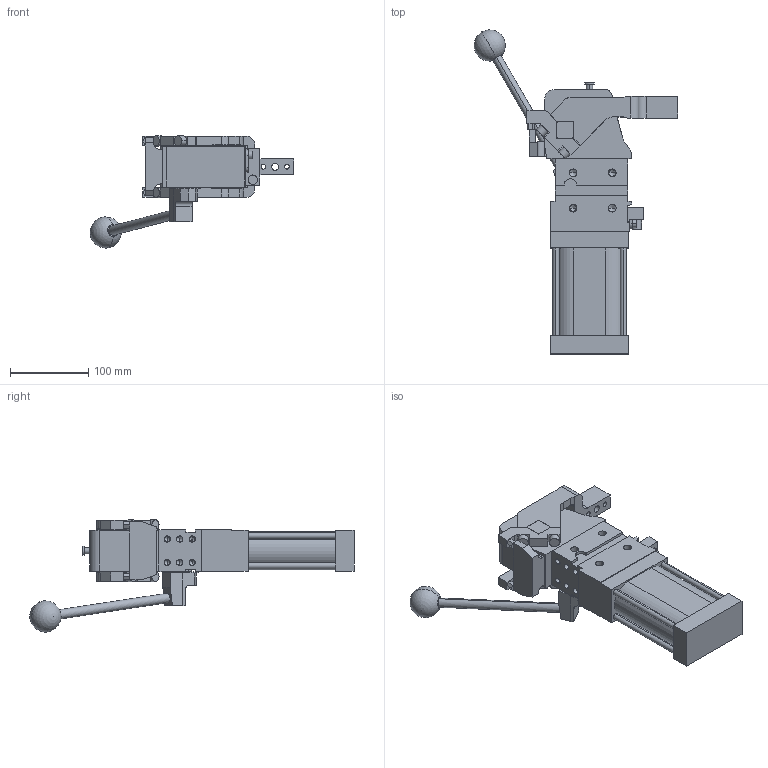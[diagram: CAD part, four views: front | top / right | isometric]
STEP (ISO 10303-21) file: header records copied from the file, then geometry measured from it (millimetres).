
FILE_DESCRIPTION (( 'STEP AP214' ), '1' );
FILE_NAME ('cplm63lbtv1csi1g_16.STEP', '2023-01-26T14:46:18', ( '' ), ( '' ), 'SwSTEP 2.0', 'SolidWorks 2022', '' );
FILE_SCHEMA (( 'AUTOMOTIVE_DESIGN' ));
Length unit declared in the file: millimetre
Products named in the file (5): leva_v1cs_cpl63t; blocchetto_VEP_0; meccanica_cplm_63_tassello_esterno; cplm63lbtv1csi1g_16; comando_manuale_cplm_63
Assembly tree (4 placements, depth 2):
  cplm63lbtv1csi1g_16
    meccanica_cplm_63_tassello_esterno
    blocchetto_VEP_0
    leva_v1cs_cpl63t
    comando_manuale_cplm_63
Bounding box: 260.54 x 414.46 x 143.5 mm (x, y, z)
Volume: 1901005.5 mm3; surface area: 215407.5 mm2
Topology: 4 solids, 4 shells, 467 faces, 1233 edges, 769 vertices
Faces by surface type: plane 248, cylinder 167, cone 50, sphere 2
Entity records: 15712 total; most frequent: CARTESIAN_POINT 2506, DIRECTION 2498, ORIENTED_EDGE 2364, EDGE_CURVE 1182, AXIS2_PLACEMENT_3D 848, VECTOR 802, LINE 802, VERTEX_POINT 766
